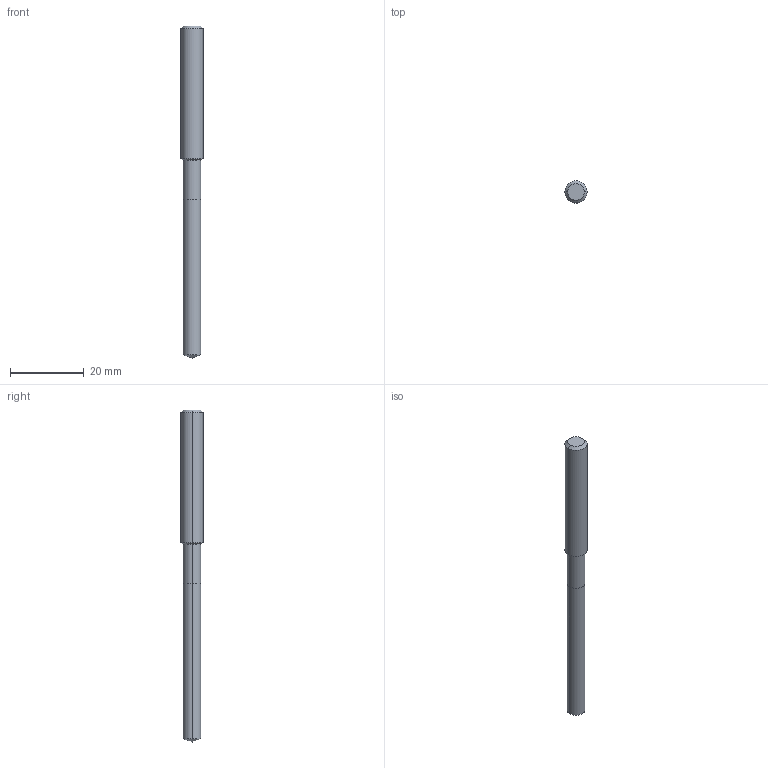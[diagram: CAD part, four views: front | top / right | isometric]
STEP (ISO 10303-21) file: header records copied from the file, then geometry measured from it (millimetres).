
FILE_DESCRIPTION(('STEP AP214'),'1');
FILE_NAME('cctmp_2E853A35-A40C-4D67-908C-3C178B811FE1_2020_11_02_13_40_24_0387..stp','2020-11-02T12:40:24',('Meusburger Georg GmbH & Co KG'),('CADClick - www.CADClick.com'),'Spatial InterOp 3D',' ','unknown authorization');
FILE_SCHEMA(('AUTOMOTIVE_DESIGN { 1 0 10303 214 1 1 1 1 }'));
Length unit declared in the file: millimetre
Products named in the file (1): WZB10223_4.8
Bounding box: 6 x 6 x 90 mm (x, y, z)
Volume: 1980.1 mm3; surface area: 1523.9 mm2
Topology: 1 solids, 1 shells, 14 faces, 28 edges, 15 vertices
Faces by surface type: cylinder 6, cone 6, plane 2
Entity records: 484 total; most frequent: DIRECTION 70, CARTESIAN_POINT 56, ORIENTED_EDGE 52, AXIS2_PLACEMENT_3D 29, EDGE_CURVE 26, STYLED_ITEM 15, PRESENTATION_STYLE_ASSIGNMENT 15, SURFACE_STYLE_USAGE 15
